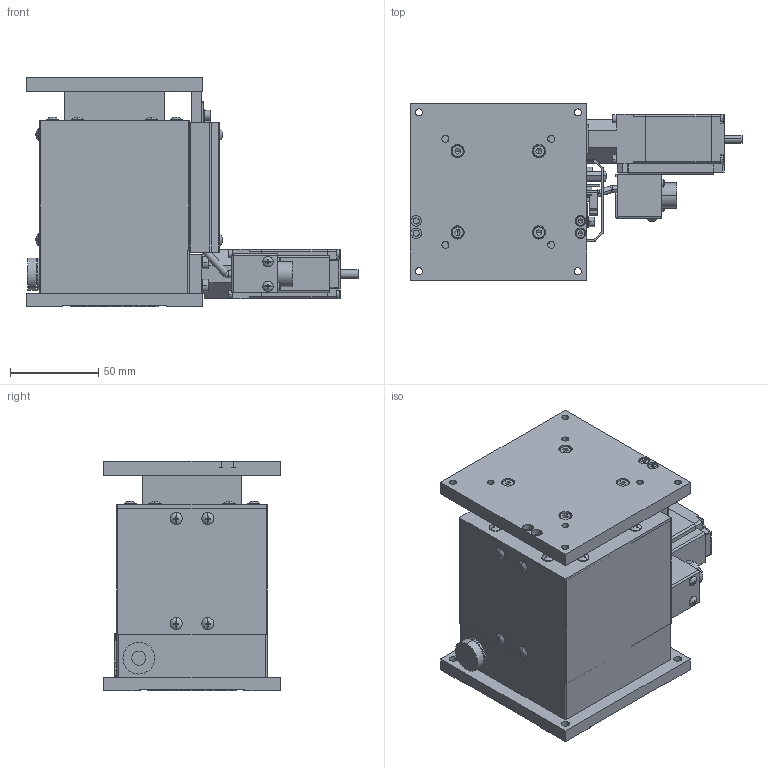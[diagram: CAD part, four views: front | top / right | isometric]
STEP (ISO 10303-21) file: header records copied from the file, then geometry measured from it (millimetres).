
FILE_DESCRIPTION (( 'STEP AP203' ), '1' );
FILE_NAME ('ZA10A-32F01-R.STEP', '2019-02-21T00:42:39', ( '' ), ( '' ), 'SwSTEP 2.0', 'SolidWorks 2018', '' );
FILE_SCHEMA (( 'CONFIG_CONTROL_DESIGN' ));
Length unit declared in the file: millimetre
Products named in the file (3): table; ZA10A-32F01-R; base
Assembly tree (2 placements, depth 2):
  ZA10A-32F01-R
    table
    base
Bounding box: 188 x 100 x 130 mm (x, y, z)
Volume: 529032.7 mm3; surface area: 171157.5 mm2
Topology: 2 solids, 2 shells, 2008 faces, 4945 edges, 3049 vertices
Faces by surface type: plane 1301, cylinder 423, cone 228, sphere 44, torus 12
Entity records: 59555 total; most frequent: CARTESIAN_POINT 10841, DIRECTION 10494, ORIENTED_EDGE 9754, EDGE_CURVE 4877, AXIS2_PLACEMENT_3D 3696, VECTOR 3102, LINE 3102, VERTEX_POINT 3049
